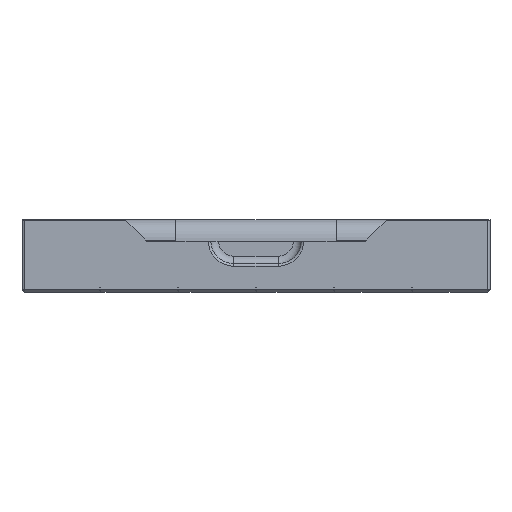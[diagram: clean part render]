
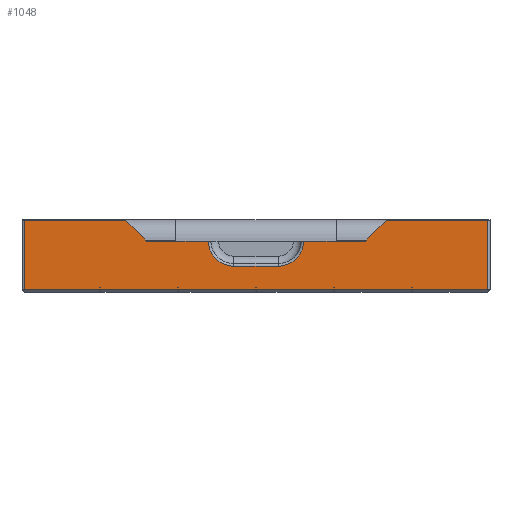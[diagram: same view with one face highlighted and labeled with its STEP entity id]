
A CAD part, front view. The second image highlights one B-rep face of the part: STEP entity #1048.
In plain terms, the highlighted planar face has unit normal (0, -1, 0).
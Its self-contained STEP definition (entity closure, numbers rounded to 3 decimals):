
#943=CARTESIAN_POINT('',(0.,-89.949,13.952));
#944=DIRECTION('',(0.,-1.,-0.));
#945=DIRECTION('',(0.,0.,-1.));
#946=AXIS2_PLACEMENT_3D('',#943,#944,#945);
#947=PLANE('',#946);
#948=CARTESIAN_POINT('',(42.083,-89.949,19.705));
#949=VERTEX_POINT('',#948);
#950=CARTESIAN_POINT('',(18.371,-89.949,19.705));
#951=VERTEX_POINT('',#950);
#952=CARTESIAN_POINT('',(42.083,-89.949,19.705));
#953=DIRECTION('',(-1.,-0.,-0.));
#954=VECTOR('',#953,23.712);
#955=LINE('',#952,#954);
#956=EDGE_CURVE('',#949,#951,#955,.T.);
#957=ORIENTED_EDGE('',*,*,#956,.T.);
#958=CARTESIAN_POINT('',(8.5,-89.949,10.032));
#959=VERTEX_POINT('',#958);
#960=CARTESIAN_POINT('',(8.5,-89.949,19.905));
#961=DIRECTION('',(-0.,1.,0.));
#962=DIRECTION('',(0.,0.,-1.));
#963=AXIS2_PLACEMENT_3D('',#960,#961,#962);
#964=CIRCLE('',#963,9.873);
#965=EDGE_CURVE('',#951,#959,#964,.T.);
#966=ORIENTED_EDGE('',*,*,#965,.T.);
#967=CARTESIAN_POINT('',(-8.5,-89.949,10.032));
#968=VERTEX_POINT('',#967);
#969=CARTESIAN_POINT('',(8.5,-89.949,10.032));
#970=DIRECTION('',(-1.,-0.,-0.));
#971=VECTOR('',#970,17.);
#972=LINE('',#969,#971);
#973=EDGE_CURVE('',#959,#968,#972,.T.);
#974=ORIENTED_EDGE('',*,*,#973,.T.);
#975=CARTESIAN_POINT('',(-18.371,-89.949,19.705));
#976=VERTEX_POINT('',#975);
#977=CARTESIAN_POINT('',(-8.5,-89.949,19.905));
#978=DIRECTION('',(-0.,1.,0.));
#979=DIRECTION('',(0.,0.,-1.));
#980=AXIS2_PLACEMENT_3D('',#977,#978,#979);
#981=CIRCLE('',#980,9.873);
#982=EDGE_CURVE('',#968,#976,#981,.T.);
#983=ORIENTED_EDGE('',*,*,#982,.T.);
#984=CARTESIAN_POINT('',(-42.083,-89.949,19.705));
#985=VERTEX_POINT('',#984);
#986=CARTESIAN_POINT('',(-18.371,-89.949,19.705));
#987=DIRECTION('',(-1.,-0.,-0.));
#988=VECTOR('',#987,23.712);
#989=LINE('',#986,#988);
#990=EDGE_CURVE('',#976,#985,#989,.T.);
#991=ORIENTED_EDGE('',*,*,#990,.T.);
#992=CARTESIAN_POINT('',(-50.083,-89.949,27.705));
#993=VERTEX_POINT('',#992);
#994=CARTESIAN_POINT('',(-42.083,-89.949,19.705));
#995=DIRECTION('',(-0.707,-0.,0.707));
#996=VECTOR('',#995,11.314);
#997=LINE('',#994,#996);
#998=EDGE_CURVE('',#985,#993,#997,.T.);
#999=ORIENTED_EDGE('',*,*,#998,.T.);
#1000=CARTESIAN_POINT('',(-89.,-89.949,27.705));
#1001=VERTEX_POINT('',#1000);
#1002=CARTESIAN_POINT('',(-50.083,-89.949,27.705));
#1003=DIRECTION('',(-1.,-0.,0.));
#1004=VECTOR('',#1003,38.917);
#1005=LINE('',#1002,#1004);
#1006=EDGE_CURVE('',#993,#1001,#1005,.T.);
#1007=ORIENTED_EDGE('',*,*,#1006,.T.);
#1008=CARTESIAN_POINT('',(-89.,-89.949,1.));
#1009=VERTEX_POINT('',#1008);
#1010=CARTESIAN_POINT('',(-89.,-89.949,27.705));
#1011=DIRECTION('',(-0.,0.,-1.));
#1012=VECTOR('',#1011,26.705);
#1013=LINE('',#1010,#1012);
#1014=EDGE_CURVE('',#1001,#1009,#1013,.T.);
#1015=ORIENTED_EDGE('',*,*,#1014,.T.);
#1016=CARTESIAN_POINT('',(89.,-89.949,1.));
#1017=VERTEX_POINT('',#1016);
#1018=CARTESIAN_POINT('',(-89.,-89.949,1.));
#1019=DIRECTION('',(1.,0.,0.));
#1020=VECTOR('',#1019,178.);
#1021=LINE('',#1018,#1020);
#1022=EDGE_CURVE('',#1009,#1017,#1021,.T.);
#1023=ORIENTED_EDGE('',*,*,#1022,.T.);
#1024=CARTESIAN_POINT('',(89.,-89.949,27.705));
#1025=VERTEX_POINT('',#1024);
#1026=CARTESIAN_POINT('',(89.,-89.949,1.));
#1027=DIRECTION('',(-0.,-0.,1.));
#1028=VECTOR('',#1027,26.705);
#1029=LINE('',#1026,#1028);
#1030=EDGE_CURVE('',#1017,#1025,#1029,.T.);
#1031=ORIENTED_EDGE('',*,*,#1030,.T.);
#1032=CARTESIAN_POINT('',(50.083,-89.949,27.705));
#1033=VERTEX_POINT('',#1032);
#1034=CARTESIAN_POINT('',(50.083,-89.949,27.705));
#1035=DIRECTION('',(1.,0.,0.));
#1036=VECTOR('',#1035,38.917);
#1037=LINE('',#1034,#1036);
#1038=EDGE_CURVE('',#1033,#1025,#1037,.T.);
#1039=ORIENTED_EDGE('',*,*,#1038,.F.);
#1040=CARTESIAN_POINT('',(42.083,-89.949,19.705));
#1041=DIRECTION('',(0.707,0.,0.707));
#1042=VECTOR('',#1041,11.314);
#1043=LINE('',#1040,#1042);
#1044=EDGE_CURVE('',#949,#1033,#1043,.T.);
#1045=ORIENTED_EDGE('',*,*,#1044,.F.);
#1046=EDGE_LOOP('',(#957,#966,#974,#983,#991,#999,#1007,#1015,#1023,#1031,#1039,#1045));
#1047=FACE_BOUND('',#1046,.T.);
#1048=ADVANCED_FACE('',(#1047),#947,.T.);
